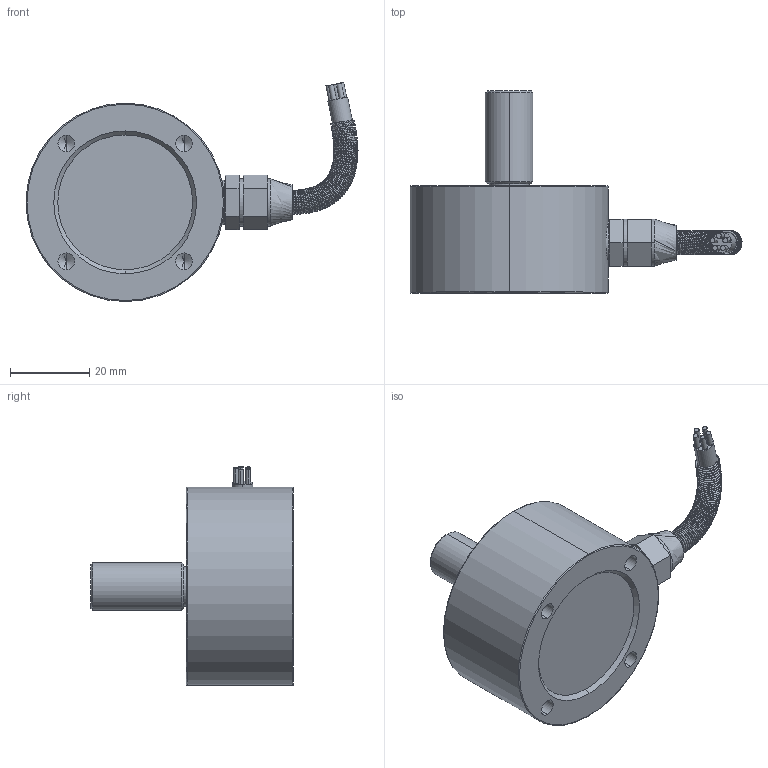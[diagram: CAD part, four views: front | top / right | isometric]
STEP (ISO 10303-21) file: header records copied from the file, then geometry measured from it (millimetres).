
FILE_DESCRIPTION (( 'STEP AP214' ), '1' );
FILE_NAME ('RSB3.STEP', '2024-08-16T21:45:44', ( '' ), ( '' ), 'SwSTEP 2.0', 'SolidWorks 2022', '' );
FILE_SCHEMA (( 'AUTOMOTIVE_DESIGN' ));
Length unit declared in the file: inch
Products named in the file (1): RSB3
Bounding box: 83.68 x 51 x 55.23 mm (x, y, z)
Volume: 55466.1 mm3; surface area: 12752.3 mm2
Topology: 3 solids, 3 shells, 117 faces, 252 edges, 150 vertices
Faces by surface type: plane 50, cylinder 37, cone 14, torus 8, bspline 8
Entity records: 20837 total; most frequent: CARTESIAN_POINT 17858, DIRECTION 578, ORIENTED_EDGE 488, EDGE_CURVE 244, AXIS2_PLACEMENT_3D 237, VERTEX_POINT 150, EDGE_LOOP 134, CIRCLE 127
